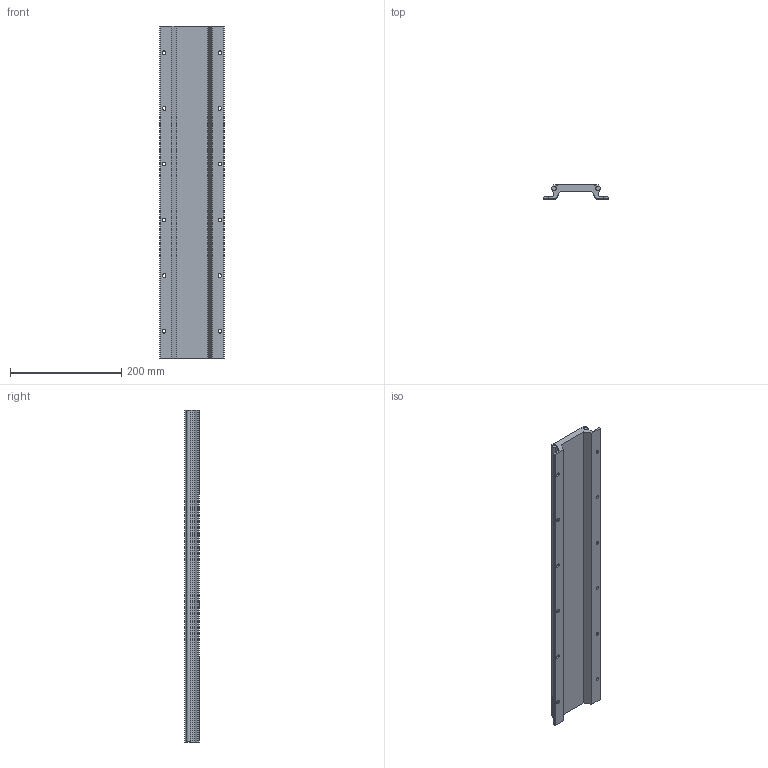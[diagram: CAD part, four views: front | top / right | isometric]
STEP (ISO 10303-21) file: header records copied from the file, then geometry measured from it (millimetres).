
FILE_DESCRIPTION (( 'STEP AP203' ), '1' );
FILE_NAME ('MLF 3_-_MLF 3 596 mm lang.step', '2005-06-03T09:57:28', ( ' ' ), ( ' ' ), 'SwSTEP 2.0', 'SolidWorks 2004231', '' );
FILE_SCHEMA (( 'CONFIG_CONTROL_DESIGN' ));
Length unit declared in the file: millimetre
Products named in the file (1): MLF 3_-_MLF 3  596 mm lang
Bounding box: 115 x 25.5 x 596 mm (x, y, z)
Volume: 773651 mm3; surface area: 211970.5 mm2
Topology: 1 solids, 1 shells, 128 faces, 426 edges, 280 vertices
Faces by surface type: plane 84, cylinder 44
Entity records: 4787 total; most frequent: CARTESIAN_POINT 979, ORIENTED_EDGE 852, DIRECTION 748, EDGE_CURVE 426, VERTEX_POINT 280, VECTOR 266, LINE 266, AXIS2_PLACEMENT_3D 241
